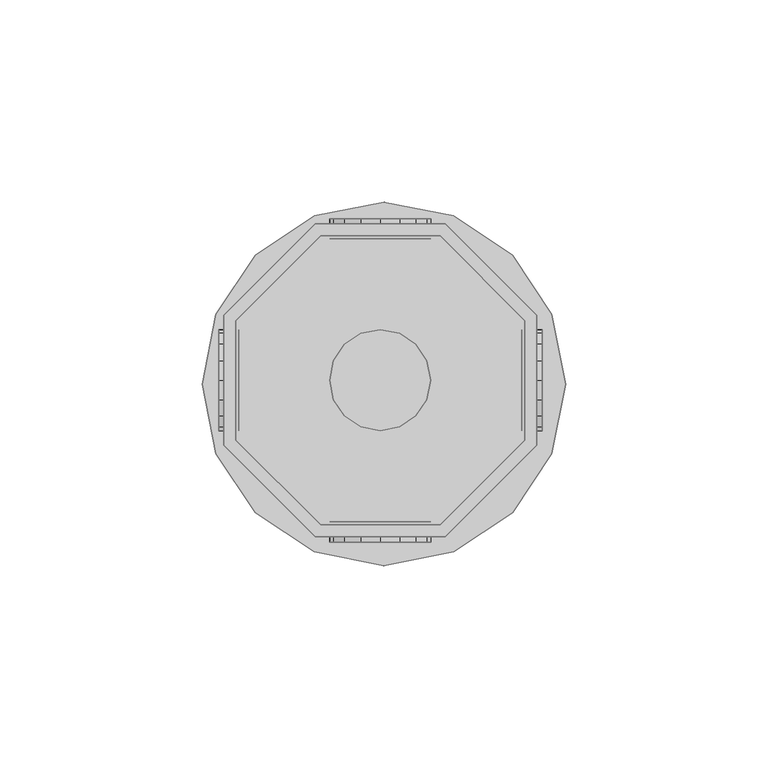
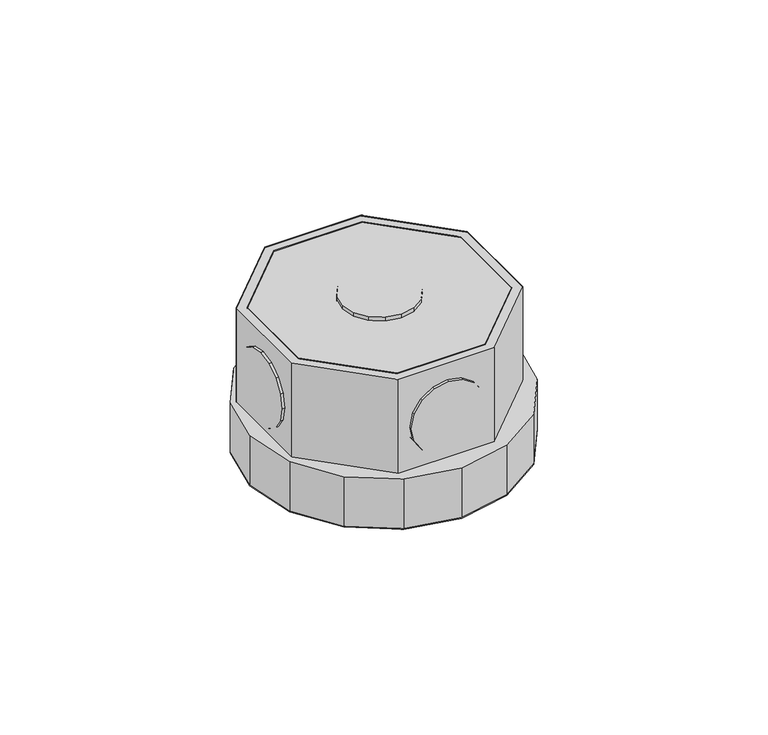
"""IFC4 building model written with IfcOpenShell, lengths in millimetres: light fixture geometry,  213174 :  213174."""

from ifc_helpers import new_model, si_unit, origin, place, context, project, spatial, triangles, source, transform, mapped, element, save


def light_fixture_c10ae48a(model_context):
    return source(origin(), model_context, "Body", "Tessellation", [
        triangles([(22382.4989136, 18755.5005341, 2924.5999741), (22352.9007202, 18755.5005341, 2975.400071), (22352.9007202, 18755.5005341, 2924.5999741), (22382.4989136, 18755.5005341, 2975.400071), (22383.6988403, 18681.0004303, 2924.5999741), (22351.6007996, 18681.0004303, 2975.400071), (22351.6007996, 18681.0004303, 2924.5999741), (22383.6988403, 18681.0004303, 2975.400071), (22331.8996765, 18734.4994904, 2975.400071), (22331.8996765, 18734.4994904, 2924.5999741), (22406.3997803, 18703.7002075, 2924.5999741), (22406.3997803, 18703.7002075, 2975.400071), (22331.8996765, 18704.9001343, 2975.400071), (22331.8996765, 18704.9001343, 2924.5999741), (22406.3997803, 18735.8005737, 2924.5999741), (22406.3997803, 18735.8005737, 2975.400071), (22352.9007202, 18684.0002472, 2975.400071), (22352.9007202, 18684.0002472, 2924.5999741), (22383.6988403, 18758.500351, 2924.5999741), (22383.6988403, 18758.500351, 2975.400071), (22382.4989136, 18684.0002472, 2924.5999741), (22382.4989136, 18684.0002472, 2975.400071), (22351.6007996, 18758.500351, 2975.400071), (22351.6007996, 18758.500351, 2924.5999741), (22403.3999634, 18704.9001343, 2924.5999741), (22403.3999634, 18704.9001343, 2975.400071), (22328.8998596, 18735.8005737, 2975.400071), (22328.8998596, 18735.8005737, 2924.5999741), (22328.8998596, 18703.7002075, 2975.400071), (22403.3999634, 18734.4994904, 2975.400071), (22403.3999634, 18734.4994904, 2924.5999741), (22328.8998596, 18703.7002075, 2924.5999741), (22331.8996765, 18704.9001343, 2972.3999634), (22352.9007202, 18684.0002472, 2972.3999634), (22382.4989136, 18684.0002472, 2972.3999634), (22403.3999634, 18704.9001343, 2972.3999634), (22403.3999634, 18734.4994904, 2972.3999634), (22382.4989136, 18755.5005341, 2972.3999634), (22352.9007202, 18755.5005341, 2972.3999634), (22331.8996765, 18734.4994904, 2972.3999634), (22328.8998596, 18735.8005737, 2942.4000504), (22351.6007996, 18758.500351, 2942.4000504), (22383.6988403, 18758.500351, 2942.4000504), (22406.3997803, 18735.8005737, 2942.4000504), (22406.3997803, 18703.7002075, 2942.4000504), (22383.6988403, 18681.0004303, 2942.4000504), (22351.6007996, 18681.0004303, 2942.4000504), (22328.8998596, 18703.7002075, 2942.4000504), (22351.3008179, 18677.2994934, 2942.4000504), (22326.9999756, 18701.6003357, 2942.4000504), (22336.6993835, 18687.0000641, 2942.4000504), (22323.6001831, 18718.8004486, 2942.4000504), (22326.9999756, 18736.1005554, 2942.4000504), (22336.6993835, 18750.6996643, 2942.4000504), (22351.3008179, 18760.400235, 2942.4000504), (22368.599762, 18763.8000275, 2942.4000504), (22385.8010376, 18760.400235, 2942.4000504), (22410.0995544, 18736.1005554, 2942.4000504), (22400.4001465, 18750.6996643, 2942.4000504), (22368.599762, 18673.799707, 2942.4000504), (22385.8010376, 18677.2994934, 2942.4000504), (22400.4001465, 18687.0000641, 2942.4000504), (22410.0995544, 18701.6003357, 2942.4000504), (22413.5993408, 18718.8004486, 2942.4000504), (22326.9999756, 18701.6003357, 2924.5999741), (22351.3008179, 18677.2994934, 2924.5999741), (22336.6993835, 18687.0000641, 2924.5999741), (22323.6001831, 18718.8004486, 2924.5999741), (22326.9999756, 18736.1005554, 2924.5999741), (22336.6993835, 18750.6996643, 2924.5999741), (22351.3008179, 18760.400235, 2924.5999741), (22368.599762, 18763.8000275, 2924.5999741), (22385.8010376, 18760.400235, 2924.5999741), (22410.0995544, 18736.1005554, 2924.5999741), (22400.4001465, 18750.6996643, 2924.5999741), (22368.599762, 18673.799707, 2924.5999741), (22385.8010376, 18677.2994934, 2924.5999741), (22400.4001465, 18687.0000641, 2924.5999741), (22410.0995544, 18701.6003357, 2924.5999741), (22413.5993408, 18718.8004486, 2924.5999741), (22356.1005249, 18759.7002777, 2952.6000092), (22362.9001099, 18759.7002777, 2945.9001274), (22358.8003601, 18759.7002777, 2948.5999626), (22355.2005798, 18759.7002777, 2957.4000069), (22367.6998169, 18759.7002777, 2944.8998978), (22356.1005249, 18759.7002777, 2962.2000046), (22372.4995239, 18759.7002777, 2945.9001274), (22358.8003601, 18759.7002777, 2966.2000511), (22376.4992798, 18759.7002777, 2948.5999626), (22362.9001099, 18759.7002777, 2968.8998863), (22379.199115, 18759.7002777, 2952.6000092), (22367.6998169, 18759.7002777, 2969.900116), (22380.199054, 18759.7002777, 2957.4000069), (22372.4995239, 18759.7002777, 2968.8998863), (22379.199115, 18759.7002777, 2962.2000046), (22376.4992798, 18759.7002777, 2966.2000511), (22362.9001099, 18754.6994202, 2945.9001274), (22356.1005249, 18754.6994202, 2952.6000092), (22358.8003601, 18754.6994202, 2948.5999626), (22367.6998169, 18754.6994202, 2944.8998978), (22355.2005798, 18754.6994202, 2957.4000069), (22372.4995239, 18754.6994202, 2945.9001274), (22356.1005249, 18754.6994202, 2962.2000046), (22376.4992798, 18754.6994202, 2948.5999626), (22358.8003601, 18754.6994202, 2966.2000511), (22362.9001099, 18754.6994202, 2968.8998863), (22379.199115, 18754.6994202, 2952.6000092), (22367.6998169, 18754.6994202, 2969.900116), (22380.199054, 18754.6994202, 2957.4000069), (22372.4995239, 18754.6994202, 2968.8998863), (22379.199115, 18754.6994202, 2962.2000046), (22376.4992798, 18754.6994202, 2966.2000511), (22356.1005249, 18684.7002045, 2952.6000092), (22362.9001099, 18684.7002045, 2945.9001274), (22358.8003601, 18684.7002045, 2948.5999626), (22355.2005798, 18684.7002045, 2957.4000069), (22367.6998169, 18684.7002045, 2944.8998978), (22356.1005249, 18684.7002045, 2962.2000046), (22372.4995239, 18684.7002045, 2945.9001274), (22358.8003601, 18684.7002045, 2966.2000511), (22376.4992798, 18684.7002045, 2948.5999626), (22362.9001099, 18684.7002045, 2968.8998863), (22379.199115, 18684.7002045, 2952.6000092), (22367.6998169, 18684.7002045, 2969.900116), (22380.199054, 18684.7002045, 2957.4000069), (22372.4995239, 18684.7002045, 2968.8998863), (22379.199115, 18684.7002045, 2962.2000046), (22376.4992798, 18684.7002045, 2966.2000511), (22362.9001099, 18679.7005096, 2945.9001274), (22356.1005249, 18679.7005096, 2952.6000092), (22358.8003601, 18679.7005096, 2948.5999626), (22367.6998169, 18679.7005096, 2944.8998978), (22355.2005798, 18679.7005096, 2957.4000069), (22372.4995239, 18679.7005096, 2945.9001274), (22356.1005249, 18679.7005096, 2962.2000046), (22376.4992798, 18679.7005096, 2948.5999626), (22358.8003601, 18679.7005096, 2966.2000511), (22362.9001099, 18679.7005096, 2968.8998863), (22379.199115, 18679.7005096, 2952.6000092), (22367.6998169, 18679.7005096, 2969.900116), (22380.199054, 18679.7005096, 2957.4000069), (22372.4995239, 18679.7005096, 2968.8998863), (22379.199115, 18679.7005096, 2962.2000046), (22376.4992798, 18679.7005096, 2966.2000511), (22332.6996277, 18714.8995239, 2945.9001274), (22332.6996277, 18708.1999329, 2952.6000092), (22332.6996277, 18710.8997681, 2948.5999626), (22332.6996277, 18719.7003937, 2944.8998978), (22332.6996277, 18707.1999939, 2957.4000069), (22332.6996277, 18724.5001007, 2945.9001274), (22332.6996277, 18708.1999329, 2962.2000046), (22332.6996277, 18728.5998505, 2948.5999626), (22332.6996277, 18710.8997681, 2966.2000511), (22332.6996277, 18714.8995239, 2968.8998863), (22332.6996277, 18731.2996857, 2952.6000092), (22332.6996277, 18719.7003937, 2969.900116), (22332.6996277, 18732.1996307, 2957.4000069), (22332.6996277, 18724.5001007, 2968.8998863), (22332.6996277, 18731.2996857, 2962.2000046), (22332.6996277, 18728.5998505, 2966.2000511), (22327.6999329, 18708.1999329, 2952.6000092), (22327.6999329, 18714.8995239, 2945.9001274), (22327.6999329, 18710.8997681, 2948.5999626), (22327.6999329, 18707.1999939, 2957.4000069), (22327.6999329, 18719.7003937, 2944.8998978), (22327.6999329, 18708.1999329, 2962.2000046), (22327.6999329, 18724.5001007, 2945.9001274), (22327.6999329, 18710.8997681, 2966.2000511), (22327.6999329, 18728.5998505, 2948.5999626), (22327.6999329, 18714.8995239, 2968.8998863), (22327.6999329, 18731.2996857, 2952.6000092), (22327.6999329, 18719.7003937, 2969.900116), (22327.6999329, 18732.1996307, 2957.4000069), (22327.6999329, 18724.5001007, 2968.8998863), (22327.6999329, 18731.2996857, 2962.2000046), (22327.6999329, 18728.5998505, 2966.2000511), (22407.6997009, 18714.8995239, 2945.9001274), (22407.6997009, 18708.1999329, 2952.6000092), (22407.6997009, 18710.8997681, 2948.5999626), (22407.6997009, 18719.7003937, 2944.8998978), (22407.6997009, 18707.1999939, 2957.4000069), (22407.6997009, 18724.5001007, 2945.9001274), (22407.6997009, 18708.1999329, 2962.2000046), (22407.6997009, 18728.5998505, 2948.5999626), (22407.6997009, 18710.8997681, 2966.2000511), (22407.6997009, 18714.8995239, 2968.8998863), (22407.6997009, 18731.2996857, 2952.6000092), (22407.6997009, 18719.7003937, 2969.900116), (22407.6997009, 18732.1996307, 2957.4000069), (22407.6997009, 18724.5001007, 2968.8998863), (22407.6997009, 18731.2996857, 2962.2000046), (22407.6997009, 18728.5998505, 2966.2000511), (22402.7000061, 18708.1999329, 2952.6000092), (22402.7000061, 18714.8995239, 2945.9001274), (22402.7000061, 18710.8997681, 2948.5999626), (22402.7000061, 18707.1999939, 2957.4000069), (22402.7000061, 18719.7003937, 2944.8998978), (22402.7000061, 18708.1999329, 2962.2000046), (22402.7000061, 18724.5001007, 2945.9001274), (22402.7000061, 18710.8997681, 2966.2000511), (22402.7000061, 18728.5998505, 2948.5999626), (22402.7000061, 18714.8995239, 2968.8998863), (22402.7000061, 18731.2996857, 2952.6000092), (22402.7000061, 18719.7003937, 2969.900116), (22402.7000061, 18732.1996307, 2957.4000069), (22402.7000061, 18724.5001007, 2968.8998863), (22402.7000061, 18731.2996857, 2962.2000046), (22402.7000061, 18728.5998505, 2966.2000511), (22362.9001099, 18708.1999329, 2976.9999733), (22356.1005249, 18714.8995239, 2976.9999733), (22358.8003601, 18710.8997681, 2976.9999733), (22355.2005798, 18719.7003937, 2976.9999733), (22367.6998169, 18707.1999939, 2976.9999733), (22356.1005249, 18724.5001007, 2976.9999733), (22372.4995239, 18708.1999329, 2976.9999733), (22358.8003601, 18728.5998505, 2976.9999733), (22376.4992798, 18710.8997681, 2976.9999733), (22362.9001099, 18731.2996857, 2976.9999733), (22379.199115, 18714.8995239, 2976.9999733), (22367.6998169, 18732.1996307, 2976.9999733), (22380.199054, 18719.7003937, 2976.9999733), (22372.4995239, 18731.2996857, 2976.9999733), (22379.199115, 18724.5001007, 2976.9999733), (22376.4992798, 18728.5998505, 2976.9999733), (22356.1005249, 18714.8995239, 2971.9999878), (22362.9001099, 18708.1999329, 2971.9999878), (22358.8003601, 18710.8997681, 2971.9999878), (22355.2005798, 18719.7003937, 2971.9999878), (22367.6998169, 18707.1999939, 2971.9999878), (22356.1005249, 18724.5001007, 2971.9999878), (22372.4995239, 18708.1999329, 2971.9999878), (22358.8003601, 18728.5998505, 2971.9999878), (22376.4992798, 18710.8997681, 2971.9999878), (22362.9001099, 18731.2996857, 2971.9999878), (22379.199115, 18714.8995239, 2971.9999878), (22367.6998169, 18732.1996307, 2971.9999878), (22380.199054, 18719.7003937, 2971.9999878), (22372.4995239, 18731.2996857, 2971.9999878), (22379.199115, 18724.5001007, 2971.9999878), (22376.4992798, 18728.5998505, 2971.9999878)], [[1, 2, 3], [2, 1, 4], [5, 6, 7], [6, 5, 8], [3, 9, 10], [9, 3, 2], [11, 8, 5], [8, 11, 12], [10, 13, 14], [13, 10, 9], [15, 12, 11], [12, 15, 16], [14, 17, 18], [17, 14, 13], [19, 16, 15], [16, 19, 20], [17, 21, 18], [21, 17, 22], [23, 19, 24], [19, 23, 20], [22, 25, 21], [25, 22, 26], [27, 24, 28], [24, 27, 23], [6, 13, 29], [29, 13, 27], [27, 13, 9], [27, 9, 23], [23, 9, 2], [23, 2, 4], [23, 4, 20], [20, 4, 30], [8, 17, 6], [6, 17, 13], [17, 8, 22], [12, 22, 8], [22, 12, 26], [30, 26, 12], [16, 30, 12], [20, 30, 16], [30, 1, 31], [1, 30, 4], [6, 32, 7], [32, 6, 29], [32, 14, 7], [28, 14, 32], [14, 28, 10], [24, 10, 28], [10, 24, 3], [1, 3, 24], [19, 1, 24], [31, 1, 19], [7, 18, 5], [14, 18, 7], [5, 18, 21], [5, 21, 11], [11, 21, 25], [11, 25, 31], [11, 31, 15], [15, 31, 19], [26, 31, 25], [31, 26, 30], [29, 28, 32], [28, 29, 27], [17, 33, 34], [33, 17, 13], [35, 17, 34], [17, 35, 22], [36, 22, 35], [22, 36, 26], [37, 26, 36], [26, 37, 30], [38, 30, 37], [30, 38, 4], [2, 38, 39], [38, 2, 4], [17, 9, 13], [9, 17, 22], [9, 22, 2], [2, 22, 26], [2, 26, 4], [4, 26, 30], [13, 40, 33], [40, 13, 9], [40, 34, 33], [35, 34, 40], [35, 40, 39], [35, 39, 36], [36, 39, 38], [36, 38, 37], [9, 39, 40], [39, 9, 2], [24, 41, 28], [41, 24, 42], [19, 42, 24], [42, 19, 43], [44, 19, 15], [19, 44, 43], [45, 15, 11], [15, 45, 44], [46, 11, 5], [11, 46, 45], [47, 5, 7], [5, 47, 46], [32, 47, 7], [47, 32, 48], [28, 48, 32], [48, 28, 41], [49, 50, 51], [48, 50, 49], [50, 48, 52], [41, 52, 48], [52, 41, 53], [53, 41, 54], [42, 54, 41], [54, 42, 55], [55, 42, 43], [55, 43, 56], [56, 43, 57], [57, 43, 44], [57, 44, 58], [57, 58, 59], [47, 49, 60], [49, 47, 48], [47, 60, 46], [61, 46, 60], [46, 61, 62], [46, 62, 45], [45, 62, 63], [44, 45, 63], [44, 63, 64], [44, 64, 58], [65, 66, 67], [66, 65, 32], [68, 32, 65], [32, 68, 28], [28, 68, 69], [70, 28, 69], [28, 70, 24], [71, 24, 70], [19, 24, 71], [19, 71, 72], [73, 19, 72], [19, 73, 15], [74, 15, 73], [74, 73, 75], [76, 66, 7], [32, 7, 66], [5, 76, 7], [76, 5, 77], [77, 5, 78], [11, 78, 5], [78, 11, 79], [79, 11, 15], [79, 15, 80], [80, 15, 74], [57, 75, 73], [75, 57, 59], [56, 73, 72], [73, 56, 57], [55, 72, 71], [72, 55, 56], [54, 71, 70], [71, 54, 55], [53, 70, 69], [70, 53, 54], [52, 69, 68], [69, 52, 53], [50, 68, 65], [68, 50, 52], [51, 65, 67], [65, 51, 50], [66, 51, 67], [51, 66, 49], [76, 49, 66], [49, 76, 60], [77, 60, 76], [60, 77, 61], [78, 61, 77], [61, 78, 62], [79, 62, 78], [62, 79, 63], [80, 63, 79], [63, 80, 64], [75, 58, 74], [58, 75, 59], [74, 64, 80], [64, 74, 58], [81, 82, 83], [82, 81, 84], [85, 82, 84], [85, 84, 86], [87, 85, 86], [87, 86, 88], [87, 88, 89], [89, 88, 90], [89, 90, 91], [91, 90, 92], [91, 92, 93], [93, 92, 94], [93, 94, 95], [95, 94, 96], [97, 98, 99], [98, 97, 100], [101, 98, 100], [101, 100, 102], [103, 101, 102], [103, 102, 104], [103, 104, 105], [105, 104, 106], [106, 104, 107], [106, 107, 108], [108, 107, 109], [108, 109, 110], [110, 109, 111], [110, 111, 112], [87, 104, 102], [104, 87, 89], [85, 102, 100], [102, 85, 87], [82, 100, 97], [100, 82, 85], [83, 97, 99], [97, 83, 82], [98, 83, 99], [83, 98, 81], [101, 81, 98], [81, 101, 84], [103, 84, 101], [84, 103, 86], [105, 86, 103], [86, 105, 88], [106, 88, 105], [88, 106, 90], [108, 90, 106], [90, 108, 92], [110, 92, 108], [92, 110, 94], [112, 94, 110], [94, 112, 96], [95, 112, 111], [112, 95, 96], [93, 111, 109], [111, 93, 95], [89, 107, 104], [107, 89, 91], [91, 109, 107], [109, 91, 93], [113, 114, 115], [114, 113, 116], [117, 114, 116], [117, 116, 118], [119, 117, 118], [119, 118, 120], [119, 120, 121], [121, 120, 122], [121, 122, 123], [123, 122, 124], [123, 124, 125], [125, 124, 126], [125, 126, 127], [127, 126, 128], [129, 130, 131], [130, 129, 132], [133, 130, 132], [133, 132, 134], [135, 133, 134], [135, 134, 136], [135, 136, 137], [137, 136, 138], [138, 136, 139], [138, 139, 140], [140, 139, 141], [140, 141, 142], [142, 141, 143], [142, 143, 144], [119, 136, 134], [136, 119, 121], [117, 134, 132], [134, 117, 119], [114, 132, 129], [132, 114, 117], [115, 129, 131], [129, 115, 114], [130, 115, 131], [115, 130, 113], [133, 113, 130], [113, 133, 116], [135, 116, 133], [116, 135, 118], [137, 118, 135], [118, 137, 120], [138, 120, 137], [120, 138, 122], [140, 122, 138], [122, 140, 124], [142, 124, 140], [124, 142, 126], [144, 126, 142], [126, 144, 128], [127, 144, 143], [144, 127, 128], [125, 143, 141], [143, 125, 127], [121, 139, 136], [139, 121, 123], [123, 141, 139], [141, 123, 125], [145, 146, 147], [146, 145, 148], [149, 146, 148], [149, 148, 150], [151, 149, 150], [151, 150, 152], [151, 152, 153], [153, 152, 154], [154, 152, 155], [154, 155, 156], [156, 155, 157], [156, 157, 158], [158, 157, 159], [158, 159, 160], [161, 162, 163], [162, 161, 164], [165, 162, 164], [165, 164, 166], [167, 165, 166], [167, 166, 168], [169, 167, 168], [169, 168, 170], [169, 170, 171], [171, 170, 172], [171, 172, 173], [173, 172, 174], [173, 174, 175], [175, 174, 176], [158, 176, 174], [176, 158, 160], [156, 174, 172], [174, 156, 158], [154, 172, 170], [172, 154, 156], [153, 170, 168], [170, 153, 154], [151, 168, 166], [168, 151, 153], [149, 166, 164], [166, 149, 151], [146, 164, 161], [164, 146, 149], [147, 161, 163], [161, 147, 146], [162, 147, 163], [147, 162, 145], [165, 145, 162], [145, 165, 148], [167, 148, 165], [148, 167, 150], [169, 150, 167], [150, 169, 152], [171, 152, 169], [152, 171, 155], [173, 155, 171], [155, 173, 157], [176, 159, 175], [159, 176, 160], [175, 157, 173], [157, 175, 159], [177, 178, 179], [178, 177, 180], [181, 178, 180], [181, 180, 182], [183, 181, 182], [183, 182, 184], [183, 184, 185], [185, 184, 186], [186, 184, 187], [186, 187, 188], [188, 187, 189], [188, 189, 190], [190, 189, 191], [190, 191, 192], [193, 194, 195], [194, 193, 196], [197, 194, 196], [197, 196, 198], [199, 197, 198], [199, 198, 200], [201, 199, 200], [201, 200, 202], [201, 202, 203], [203, 202, 204], [203, 204, 205], [205, 204, 206], [205, 206, 207], [207, 206, 208], [190, 208, 206], [208, 190, 192], [188, 206, 204], [206, 188, 190], [186, 204, 202], [204, 186, 188], [185, 202, 200], [202, 185, 186], [183, 200, 198], [200, 183, 185], [181, 198, 196], [198, 181, 183], [178, 196, 193], [196, 178, 181], [179, 193, 195], [193, 179, 178], [194, 179, 195], [179, 194, 177], [197, 177, 194], [177, 197, 180], [199, 180, 197], [180, 199, 182], [201, 182, 199], [182, 201, 184], [203, 184, 201], [184, 203, 187], [205, 187, 203], [187, 205, 189], [208, 191, 207], [191, 208, 192], [207, 189, 205], [189, 207, 191], [209, 210, 211], [212, 210, 209], [212, 209, 213], [214, 212, 213], [214, 213, 215], [216, 214, 215], [216, 215, 217], [216, 217, 218], [218, 217, 219], [218, 219, 220], [220, 219, 221], [220, 221, 222], [222, 221, 223], [222, 223, 224], [225, 226, 227], [226, 225, 228], [229, 226, 228], [229, 228, 230], [231, 229, 230], [231, 230, 232], [231, 232, 233], [233, 232, 234], [233, 234, 235], [235, 234, 236], [235, 236, 237], [237, 236, 238], [237, 238, 239], [239, 238, 240], [222, 240, 238], [240, 222, 224], [220, 238, 236], [238, 220, 222], [218, 236, 234], [236, 218, 220], [216, 234, 232], [234, 216, 218], [214, 232, 230], [232, 214, 216], [212, 230, 228], [230, 212, 214], [210, 228, 225], [228, 210, 212], [211, 225, 227], [225, 211, 210], [226, 211, 227], [211, 226, 209], [229, 209, 226], [209, 229, 213], [231, 213, 229], [213, 231, 215], [233, 215, 231], [215, 233, 217], [235, 217, 233], [217, 235, 219], [237, 219, 235], [219, 237, 221], [240, 223, 239], [223, 240, 224], [239, 221, 237], [221, 239, 223]], closed=False),
    ])


if __name__ == "__main__":
    model = new_model("IFC4")
    model_context = context("Model", 3, world=origin())
    ifc_project = project(units=[si_unit("LENGTHUNIT", "METRE", prefix="MILLI")], contexts=[model_context])
    site = spatial("IfcSite", under=ifc_project)
    building = spatial("IfcBuilding", under=site)
    placement = place(None, origin())
    light_fixture_shape = light_fixture_c10ae48a(model_context)
    element("IfcLightFixture", 1, ObjectType=" 213174 :  213174", at=placement, inside=building, context=model_context, shape_type="MappedRepresentation", body=[
        mapped(light_fixture_shape, transform((0.0, 0.0, 0.0), x_axis=(1.0, 0.0, 0.0), y_axis=(0.0, 1.0, 0.0), z_axis=(0.0, 0.0, 1.0))),
    ])
    save(model, "model.ifc")
